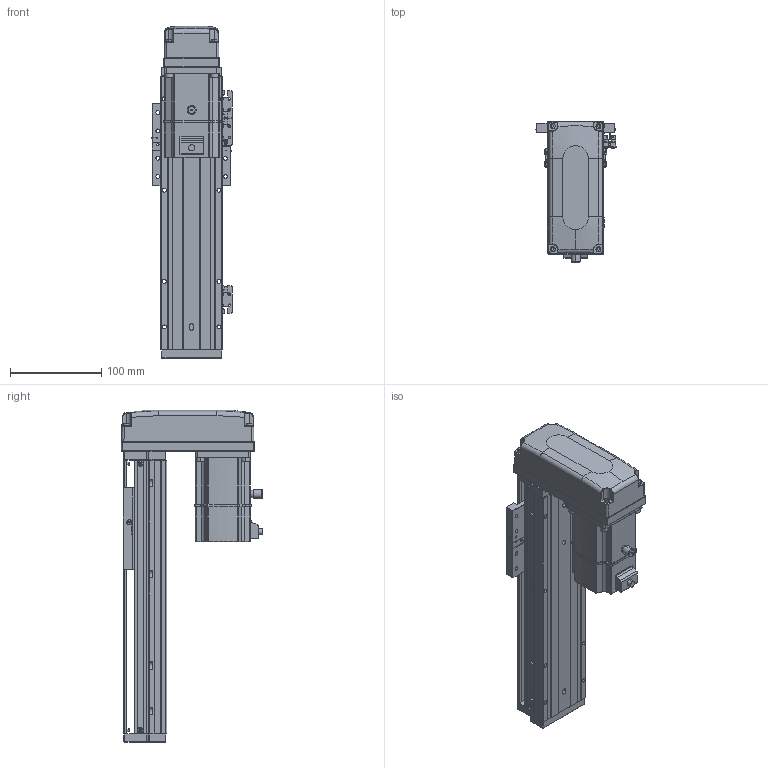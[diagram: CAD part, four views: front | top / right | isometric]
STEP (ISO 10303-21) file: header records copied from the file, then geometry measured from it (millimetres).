
FILE_DESCRIPTION (( 'STEP AP203' ), '1' );
FILE_NAME ('KTHAL60-150-BM-M20-C4L.step', '2022-12-16T02:09:30', ( '微软用户' ), ( '微软中国' ), 'SwSTEP 2.0', 'SolidWorks 2020', '' );
FILE_SCHEMA (( 'CONFIG_CONTROL_DESIGN' ));
Length unit declared in the file: millimetre
Products named in the file (17): GBT 70.1-M3℅6; GBT 70.3-M3℅6; EE_SX911P_R; CTHA60-016; KTHA60-001_300; CTHA60-017; _X2_4E0983F1_X0_200W_1; KTHLA60-002; CTHA60-021; CTHA60-015-4_CTHA60-015-4; KTHA60-004; GBT 70.1-M4×16; GTH80-026; KTHA60-005; GBT77-2000M3-3; KTHAL60-150-BM-M20-C4L; GB¨uT 70.2-M3¡Á5_M3¡Á6
Assembly tree (45 placements, depth 2):
  KTHAL60-150-BM-M20-C4L
    KTHA60-001_300
    KTHLA60-002
    KTHA60-004
    KTHA60-005
    GB¨uT 70.2-M3¡Á5_M3¡Á6  x5
    GBT 70.3-M3℅6  x4
    EE_SX911P_R  x3
    CTHA60-017  x3
    CTHA60-021  x2
    GBT 70.1-M4×16  x8
    GBT77-2000M3-3  x6
    GBT 70.1-M3℅6  x6
    CTHA60-016
    _X2_4E0983F1_X0_200W_1
    CTHA60-015-4_CTHA60-015-4
    GTH80-026
Bounding box: 87.82 x 155.2 x 364 mm (x, y, z)
Volume: 1349796.9 mm3; surface area: 268949.3 mm2
Topology: 48 solids, 48 shells, 2291 faces, 5436 edges, 3337 vertices
Faces by surface type: plane 1223, cylinder 605, cone 264, bspline 103, torus 82, sphere 14
Entity records: 43955 total; most frequent: CARTESIAN_POINT 9930, DIRECTION 6591, ORIENTED_EDGE 6496, EDGE_CURVE 3248, AXIS2_PLACEMENT_3D 2282, VECTOR 2027, LINE 2027, VERTEX_POINT 2021
